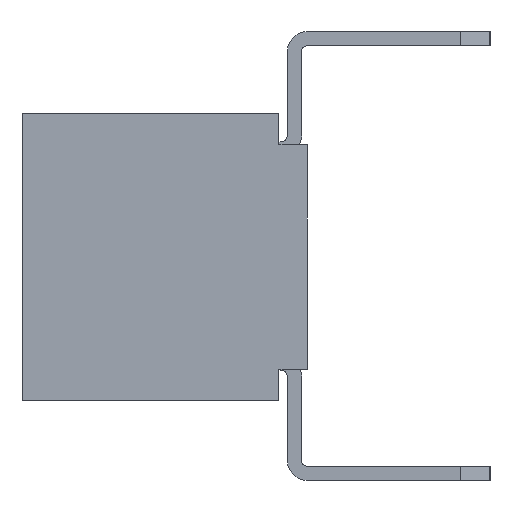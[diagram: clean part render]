
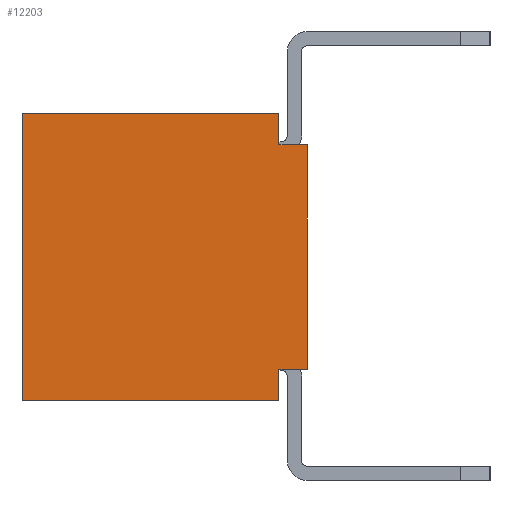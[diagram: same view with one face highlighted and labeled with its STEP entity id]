
A CAD part, left-side view. The second image highlights one B-rep face of the part: STEP entity #12203.
In plain terms, the highlighted planar face has unit normal (-1, 0, 0).
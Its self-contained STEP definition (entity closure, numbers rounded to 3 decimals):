
#498 = VERTEX_POINT ( 'NONE', #5546 ) ;
#518 = VERTEX_POINT ( 'NONE', #5558 ) ;
#521 = VERTEX_POINT ( 'NONE', #5547 ) ;
#551 = VERTEX_POINT ( 'NONE', #5572 ) ;
#617 = VERTEX_POINT ( 'NONE', #5607 ) ;
#781 = VERTEX_POINT ( 'NONE', #5642 ) ;
#895 = VERTEX_POINT ( 'NONE', #5668 ) ;
#1043 = VERTEX_POINT ( 'NONE', #5696 ) ;
#1234 = ORIENTED_EDGE ( 'NONE', *, *, #4742, .F. ) ;
#1274 = ORIENTED_EDGE ( 'NONE', *, *, #4238, .F. ) ;
#1300 = ORIENTED_EDGE ( 'NONE', *, *, #4719, .T. ) ;
#1436 = ORIENTED_EDGE ( 'NONE', *, *, #4246, .T. ) ;
#1456 = ORIENTED_EDGE ( 'NONE', *, *, #4752, .F. ) ;
#1505 = ORIENTED_EDGE ( 'NONE', *, *, #4691, .F. ) ;
#1594 = ORIENTED_EDGE ( 'NONE', *, *, #4256, .F. ) ;
#1623 = ORIENTED_EDGE ( 'NONE', *, *, #4712, .F. ) ;
#2764 = EDGE_LOOP ( 'NONE', ( #1623, #1505, #1234, #1456, #1274, #1300, #1436, #1594 ) ) ;
#4238 = EDGE_CURVE ( 'NONE', #781, #521, #6875, .T. ) ;
#4246 = EDGE_CURVE ( 'NONE', #551, #895, #6890, .T. ) ;
#4256 = EDGE_CURVE ( 'NONE', #1043, #895, #6928, .T. ) ;
#4691 = EDGE_CURVE ( 'NONE', #518, #617, #8600, .T. ) ;
#4712 = EDGE_CURVE ( 'NONE', #617, #1043, #8641, .T. ) ;
#4719 = EDGE_CURVE ( 'NONE', #781, #551, #8679, .T. ) ;
#4742 = EDGE_CURVE ( 'NONE', #498, #518, #8751, .T. ) ;
#4752 = EDGE_CURVE ( 'NONE', #521, #498, #8781, .T. ) ;
#5546 = CARTESIAN_POINT ( 'NONE',  ( -29.21, -4.503, 5. ) ) ;
#5547 = CARTESIAN_POINT ( 'NONE',  ( -29.21, 0., 5. ) ) ;
#5558 = CARTESIAN_POINT ( 'NONE',  ( -29.21, -4.503, 4.45 ) ) ;
#5572 = CARTESIAN_POINT ( 'NONE',  ( -29.21, -4.503, -0.04 ) ) ;
#5607 = CARTESIAN_POINT ( 'NONE',  ( -29.21, -5., 4.45 ) ) ;
#5642 = CARTESIAN_POINT ( 'NONE',  ( -29.21, 0., -0.04 ) ) ;
#5668 = CARTESIAN_POINT ( 'NONE',  ( -29.21, -4.503, 0.51 ) ) ;
#5696 = CARTESIAN_POINT ( 'NONE',  ( -29.21, -5., 0.51 ) ) ;
#6874 = CARTESIAN_POINT ( 'NONE',  ( -29.21, 0., 4.96 ) ) ;
#6875 = LINE ( 'NONE', #6874, #10313 ) ;
#6876 = DIRECTION ( 'NONE',  ( 0., 0., 1. ) ) ;
#6890 = LINE ( 'NONE', #6897, #10321 ) ;
#6897 = CARTESIAN_POINT ( 'NONE',  ( -29.21, -4.503, -0.04 ) ) ;
#6899 = DIRECTION ( 'NONE',  ( 0., 0., 1. ) ) ;
#6928 = LINE ( 'NONE', #6930, #10334 ) ;
#6930 = CARTESIAN_POINT ( 'NONE',  ( -29.21, -5.003, 0.51 ) ) ;
#6931 = DIRECTION ( 'NONE',  ( 0., 1., 0. ) ) ;
#8600 = LINE ( 'NONE', #8601, #10761 ) ;
#8601 = CARTESIAN_POINT ( 'NONE',  ( -29.21, -5.003, 4.45 ) ) ;
#8602 = DIRECTION ( 'NONE',  ( 0., -1., 0. ) ) ;
#8641 = LINE ( 'NONE', #8662, #10841 ) ;
#8662 = CARTESIAN_POINT ( 'NONE',  ( -29.21, -5., 4.41 ) ) ;
#8663 = DIRECTION ( 'NONE',  ( 0., 0., -1. ) ) ;
#8675 = CARTESIAN_POINT ( 'NONE',  ( -29.21, -4.503, -0.04 ) ) ;
#8679 = LINE ( 'NONE', #8675, #10842 ) ;
#8683 = DIRECTION ( 'NONE',  ( 0., -1., 0. ) ) ;
#8751 = LINE ( 'NONE', #8752, #10874 ) ;
#8752 = CARTESIAN_POINT ( 'NONE',  ( -29.21, -4.503, 5. ) ) ;
#8753 = DIRECTION ( 'NONE',  ( 0., 0., -1. ) ) ;
#8781 = LINE ( 'NONE', #8782, #10884 ) ;
#8782 = CARTESIAN_POINT ( 'NONE',  ( -29.21, -5.003, 5. ) ) ;
#8783 = DIRECTION ( 'NONE',  ( 0., -1., 0. ) ) ;
#9486 = PLANE ( 'NONE',  #11142 ) ;
#9536 = CARTESIAN_POINT ( 'NONE',  ( -29.21, -5.003, 4.96 ) ) ;
#9550 = FACE_OUTER_BOUND ( 'NONE', #2764, .T. ) ;
#9552 = DIRECTION ( 'NONE',  ( 1., 0., 0. ) ) ;
#9553 = DIRECTION ( 'NONE',  ( 0., 0., -1. ) ) ;
#10313 = VECTOR ( 'NONE', #6876, 1000. ) ;
#10321 = VECTOR ( 'NONE', #6899, 1000. ) ;
#10334 = VECTOR ( 'NONE', #6931, 1000. ) ;
#10761 = VECTOR ( 'NONE', #8602, 1000. ) ;
#10841 = VECTOR ( 'NONE', #8663, 1000. ) ;
#10842 = VECTOR ( 'NONE', #8683, 1000. ) ;
#10874 = VECTOR ( 'NONE', #8753, 1000. ) ;
#10884 = VECTOR ( 'NONE', #8783, 1000. ) ;
#11142 = AXIS2_PLACEMENT_3D ( 'NONE', #9536, #9552, #9553 ) ;
#12203 = ADVANCED_FACE ( 'NONE', ( #9550 ), #9486, .F. ) ;
